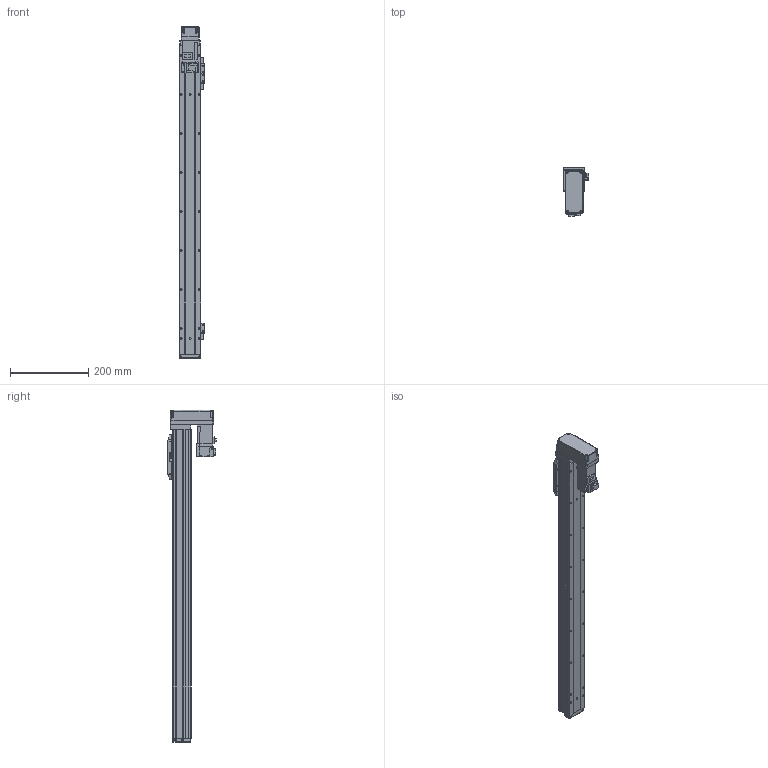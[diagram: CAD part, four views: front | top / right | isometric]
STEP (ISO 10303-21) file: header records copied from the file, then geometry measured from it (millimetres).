
FILE_DESCRIPTION (( 'STEP AP214' ), '1' );
FILE_NAME ('N_GRH5-650-BM-M10.step', '2025-03-14T10:51:07', ( '' ), ( '' ), 'SwSTEP 2.0', 'SolidWorks 2016', '' );
FILE_SCHEMA (( 'AUTOMOTIVE_DESIGN' ));
Length unit declared in the file: millimetre
Products named in the file (5): N_GRH5-BL-008^N_GRH5-650-BM-M10; HF-KP13_100W_Motor^N_GRH5-650-BM-M10; N_GRH5-650-BM-M10; N_GRH5-GY-011^N_GRH5-650-BM-M10; N_GRH5-GY-004^N_GRH5-650-BM-M10
Assembly tree (4 placements, depth 2):
  N_GRH5-650-BM-M10
    N_GRH5-GY-011^N_GRH5-650-BM-M10
    N_GRH5-GY-004^N_GRH5-650-BM-M10
    HF-KP13_100W_Motor^N_GRH5-650-BM-M10
    N_GRH5-BL-008^N_GRH5-650-BM-M10
Bounding box: 64.05 x 123.7 x 850 mm (x, y, z)
Volume: 1580581.3 mm3; surface area: 403131.5 mm2
Topology: 4 solids, 5 shells, 974 faces, 2480 edges, 1573 vertices
Faces by surface type: plane 555, cylinder 344, cone 50, bspline 15, sphere 10
Entity records: 36995 total; most frequent: CARTESIAN_POINT 5793, DIRECTION 5045, ORIENTED_EDGE 4896, EDGE_CURVE 2448, AXIS2_PLACEMENT_3D 1689, VECTOR 1667, LINE 1667, VERTEX_POINT 1571
